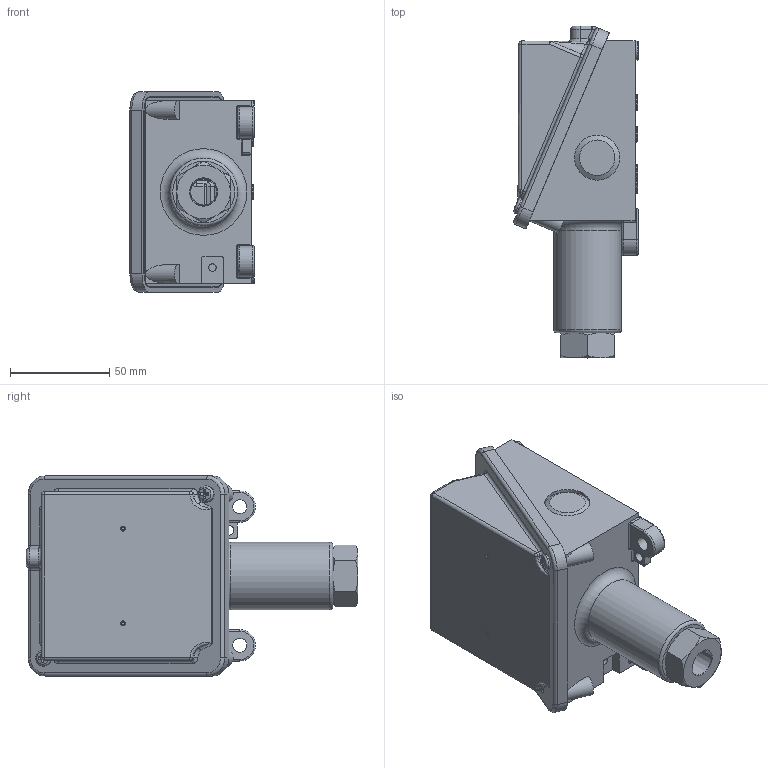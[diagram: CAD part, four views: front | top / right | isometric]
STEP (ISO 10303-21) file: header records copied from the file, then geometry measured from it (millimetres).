
FILE_DESCRIPTION (( 'STEP AP214' ), '1' );
FILE_NAME ('H100-218_V2.STEP', '2025-02-28T13:53:20', ( '' ), ( '' ), 'SwSTEP 2.0', 'SolidWorks 2023', '' );
FILE_SCHEMA (( 'AUTOMOTIVE_DESIGN' ));
Length unit declared in the file: inch
Products named in the file (1): H100-218_V2
Bounding box: 62.62 x 167.16 x 100.84 mm (x, y, z)
Surface area: 55417.3 mm2 (no closed solid volume)
Topology: 0 solids, 6 shells, 256 faces, 631 edges, 382 vertices
Faces by surface type: cylinder 85, plane 84, torus 42, cone 19, bspline 16, sphere 10
Full cylindrical faces by diameter (mm): 1.321 x2, 3.797 x1, 4.763 x1, 7.112 x2, 7.937 x2, 7.938 x2, 8.179 x2, 9.525 x2, 22.733 x2, 34.131 x1
Entity records: 7930 total; most frequent: CARTESIAN_POINT 2187, DIRECTION 1242, ORIENTED_EDGE 1094, EDGE_CURVE 582, AXIS2_PLACEMENT_3D 508, VERTEX_POINT 377, EDGE_LOOP 322, FACE_OUTER_BOUND 289
